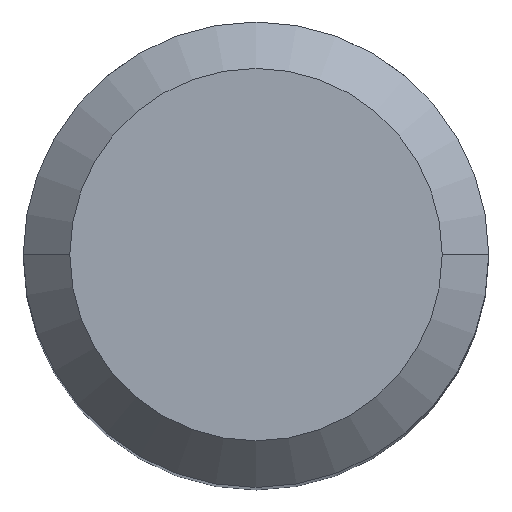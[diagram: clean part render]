
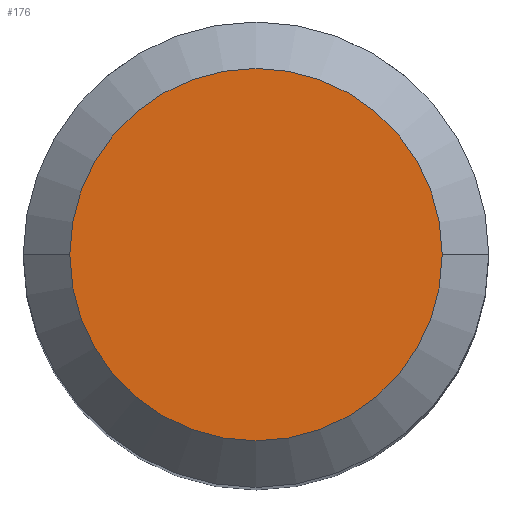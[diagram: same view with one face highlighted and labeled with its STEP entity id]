
A CAD part, top view. The second image highlights one B-rep face of the part: STEP entity #176.
In plain terms, the highlighted planar face has unit normal (0, 0, 1).
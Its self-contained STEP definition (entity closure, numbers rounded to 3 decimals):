
#28 = CARTESIAN_POINT ( 'NONE',  ( 0., 5.6, 0. ) ) ;
#47 = DIRECTION ( 'NONE',  ( -1., 0., 0. ) ) ;
#58 = CARTESIAN_POINT ( 'NONE',  ( -5.6, 0., 0. ) ) ;
#94 = VERTEX_POINT ( 'NONE', #463 ) ;
#117 = FACE_OUTER_BOUND ( 'NONE', #514, .T. ) ;
#132 = CARTESIAN_POINT ( 'NONE',  ( 0., 0., 0. ) ) ;
#165 = PLANE ( 'NONE',  #475 ) ;
#176 = ADVANCED_FACE ( 'NONE', ( #117 ), #165, .T. ) ;
#209 = AXIS2_PLACEMENT_3D ( 'NONE', #322, #450, #534 ) ;
#238 = CIRCLE ( 'NONE', #351, 5.6 ) ;
#304 = DIRECTION ( 'NONE',  ( 0., 0., 1. ) ) ;
#322 = CARTESIAN_POINT ( 'NONE',  ( 0., 0., 0. ) ) ;
#327 = EDGE_CURVE ( 'NONE', #94, #432, #512, .T. ) ;
#342 = EDGE_CURVE ( 'NONE', #432, #94, #238, .T. ) ;
#351 = AXIS2_PLACEMENT_3D ( 'NONE', #132, #452, #47 ) ;
#368 = ORIENTED_EDGE ( 'NONE', *, *, #342, .F. ) ;
#432 = VERTEX_POINT ( 'NONE', #58 ) ;
#450 = DIRECTION ( 'NONE',  ( 0., 0., -1. ) ) ;
#452 = DIRECTION ( 'NONE',  ( 0., 0., -1. ) ) ;
#463 = CARTESIAN_POINT ( 'NONE',  ( 5.6, 0., 0. ) ) ;
#475 = AXIS2_PLACEMENT_3D ( 'NONE', #28, #304, #517 ) ;
#512 = CIRCLE ( 'NONE', #209, 5.6 ) ;
#514 = EDGE_LOOP ( 'NONE', ( #368, #576 ) ) ;
#517 = DIRECTION ( 'NONE',  ( 1., 0., 0. ) ) ;
#534 = DIRECTION ( 'NONE',  ( -1., 0., 0. ) ) ;
#576 = ORIENTED_EDGE ( 'NONE', *, *, #327, .F. ) ;
